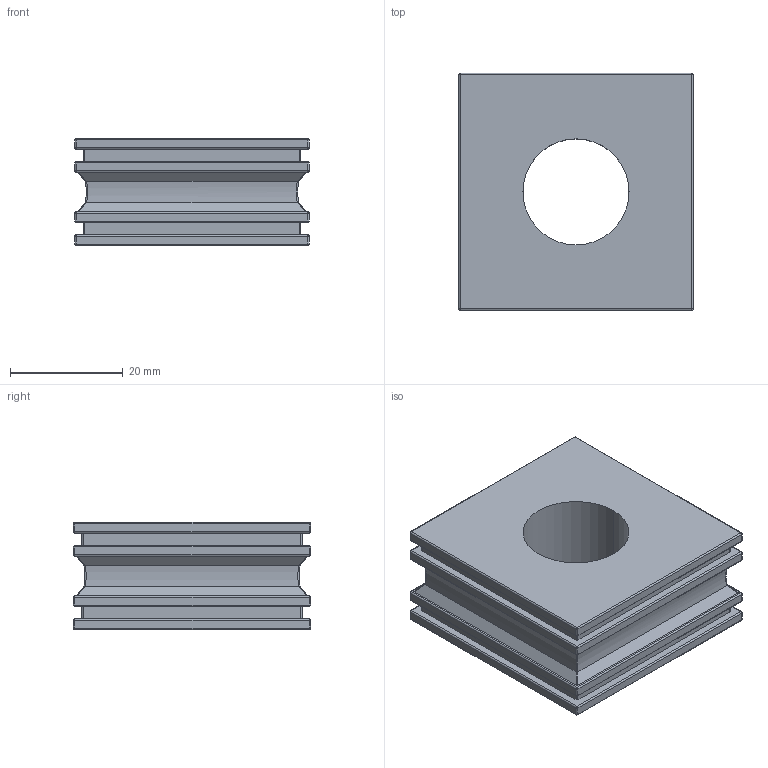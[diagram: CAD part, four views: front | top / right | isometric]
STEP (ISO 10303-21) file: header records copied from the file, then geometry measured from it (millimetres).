
FILE_DESCRIPTION (( 'STEP AP203' ), '1' );
FILE_NAME ('041219 KT19.STEP', '2023-03-07T06:37:36', ( '' ), ( '' ), 'SwSTEP 2.0', 'SolidWorks 2016', '' );
FILE_SCHEMA (( 'CONFIG_CONTROL_DESIGN' ));
Length unit declared in the file: millimetre
Products named in the file (1): 041219 KT19
Bounding box: 41.5 x 42 x 19 mm (x, y, z)
Volume: 24964.2 mm3; surface area: 8237.4 mm2
Topology: 1 solids, 1 shells, 194 faces, 477 edges, 264 vertices
Faces by surface type: plane 78, cylinder 71, bspline 45
Entity records: 6492 total; most frequent: CARTESIAN_POINT 2293, ORIENTED_EDGE 890, DIRECTION 797, EDGE_CURVE 445, AXIS2_PLACEMENT_3D 268, VERTEX_POINT 264, LINE 261, VECTOR 261
